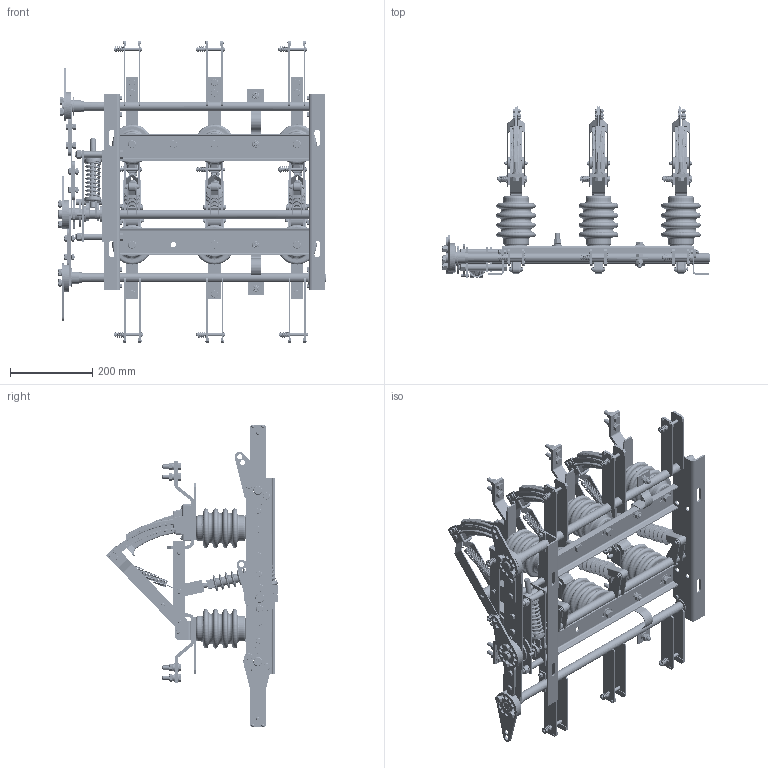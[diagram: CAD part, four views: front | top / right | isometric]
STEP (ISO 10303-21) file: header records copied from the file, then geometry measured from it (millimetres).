
FILE_DESCRIPTION (( 'STEP AP214' ), '1' );
FILE_NAME ('Âûêëþ÷àòåëü íàãðóçêè ÂÍÀ-10630-Ï-IIIç-È2-ÓÕË2-ÊÝÀÇ.STEP', '2023-02-01T07:30:50', ( '' ), ( '' ), 'SwSTEP 2.0', 'SolidWorks 2018', '' );
FILE_SCHEMA (( 'AUTOMOTIVE_DESIGN' ));
Products named in the file (1): Âûêëþ÷àòåëü íàãðóçêè ÂÍÀ-10630-Ï-IIIç-È2-ÓÕË2-ÊÝÀÇ
Bounding box: 649 x 417.68 x 735.14 mm (x, y, z)
Volume: 7959489.6 mm3; surface area: 2108716.8 mm2
Topology: 1 solids, 2 shells, 5732 faces, 14827 edges, 9366 vertices
Faces by surface type: plane 3366, cylinder 1561, cone 455, torus 241, bspline 64, sphere 45
Full cylindrical faces by diameter (mm): 1.5 x18, 4 x37, 6 x42, 6.2 x18, 6.5 x12, 8 x89, 8.1 x4, 8.2 x39, 8.34 x6, 8.377 x3, 8.38 x6, 8.4 x12, 8.5 x23, 9 x12, 9.167 x2, 9.218 x2, 10 x50, 10.2 x6, 10.3 x36, 10.5 x30, 11 x16, 12 x33, 12.2 x28, 12.5 x13, 13 x12, 13.577 x2, 16 x23, 16.2 x2, 16.4 x2, 20 x36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
Entity records: 343635 total; most frequent: CARTESIAN_POINT 214355, DIRECTION 26037, ORIENTED_EDGE 25706, EDGE_CURVE 12853, AXIS2_PLACEMENT_3D 9908, VERTEX_POINT 8744, EDGE_LOOP 7957, FACE_OUTER_BOUND 6647
